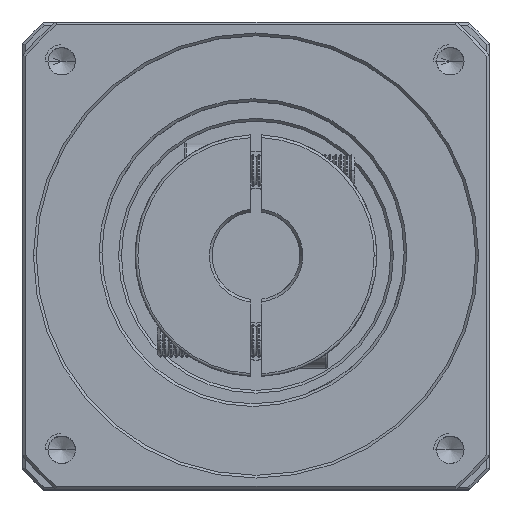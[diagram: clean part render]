
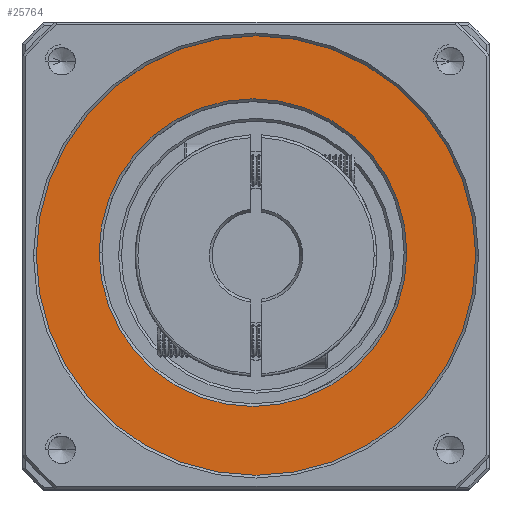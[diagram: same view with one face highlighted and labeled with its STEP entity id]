
A CAD part, top view. The second image highlights one B-rep face of the part: STEP entity #25764.
In plain terms, the highlighted planar face has unit normal (0, 0, 1).
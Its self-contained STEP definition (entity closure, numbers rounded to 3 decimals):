
#4715 = DIRECTION ( 'NONE',  ( 0., 0., -1. ) ) ;
#5273 = CARTESIAN_POINT ( 'NONE',  ( -109.692, 42.906, 120.185 ) ) ;
#10023 = AXIS2_PLACEMENT_3D ( 'NONE', #99049, #48314, #117683 ) ;
#14670 = EDGE_CURVE ( 'NONE', #103950, #25864, #120879, .T. ) ;
#15271 = CARTESIAN_POINT ( 'NONE',  ( -81.15, 42.371, 120.185 ) ) ;
#16152 = PLANE ( 'NONE',  #92284 ) ;
#19319 = ORIENTED_EDGE ( 'NONE', *, *, #45226, .T. ) ;
#22211 = ORIENTED_EDGE ( 'NONE', *, *, #14670, .T. ) ;
#25591 = AXIS2_PLACEMENT_3D ( 'NONE', #98431, #69371, #89351 ) ;
#25764 = ADVANCED_FACE ( 'NONE', ( #46026, #109770 ), #16152, .T. ) ;
#25864 = VERTEX_POINT ( 'NONE', #5273 ) ;
#26156 = DIRECTION ( 'NONE',  ( 0., 0., 1. ) ) ;
#27896 = ORIENTED_EDGE ( 'NONE', *, *, #40616, .T. ) ;
#34360 = DIRECTION ( 'NONE',  ( 1., 0., 0. ) ) ;
#36819 = CARTESIAN_POINT ( 'NONE',  ( -81.15, 42.371, 120.185 ) ) ;
#39305 = VERTEX_POINT ( 'NONE', #106836 ) ;
#40616 = EDGE_CURVE ( 'NONE', #42920, #39305, #74158, .T. ) ;
#42920 = VERTEX_POINT ( 'NONE', #110807 ) ;
#43542 = AXIS2_PLACEMENT_3D ( 'NONE', #36819, #116634, #105416 ) ;
#43545 = EDGE_LOOP ( 'NONE', ( #22211, #19319 ) ) ;
#45226 = EDGE_CURVE ( 'NONE', #25864, #103950, #77356, .T. ) ;
#46026 = FACE_OUTER_BOUND ( 'NONE', #91487, .T. ) ;
#46499 = ORIENTED_EDGE ( 'NONE', *, *, #85867, .T. ) ;
#48314 = DIRECTION ( 'NONE',  ( 0., 0., -1. ) ) ;
#54052 = DIRECTION ( 'NONE',  ( 1., 0., 0. ) ) ;
#63932 = CARTESIAN_POINT ( 'NONE',  ( -81.692, 42.906, 120.185 ) ) ;
#67887 = CARTESIAN_POINT ( 'NONE',  ( -53.692, 42.906, 120.185 ) ) ;
#69371 = DIRECTION ( 'NONE',  ( 0., 0., 1. ) ) ;
#74158 = CIRCLE ( 'NONE', #43542, 40. ) ;
#76578 = CIRCLE ( 'NONE', #25591, 40. ) ;
#77356 = CIRCLE ( 'NONE', #120660, 28. ) ;
#85867 = EDGE_CURVE ( 'NONE', #39305, #42920, #76578, .T. ) ;
#89351 = DIRECTION ( 'NONE',  ( 1., 0., 0. ) ) ;
#91487 = EDGE_LOOP ( 'NONE', ( #27896, #46499 ) ) ;
#92284 = AXIS2_PLACEMENT_3D ( 'NONE', #15271, #26156, #54052 ) ;
#98431 = CARTESIAN_POINT ( 'NONE',  ( -81.15, 42.371, 120.185 ) ) ;
#99049 = CARTESIAN_POINT ( 'NONE',  ( -81.692, 42.906, 120.185 ) ) ;
#103950 = VERTEX_POINT ( 'NONE', #67887 ) ;
#105416 = DIRECTION ( 'NONE',  ( 1., 0., 0. ) ) ;
#106836 = CARTESIAN_POINT ( 'NONE',  ( -121.15, 42.371, 120.185 ) ) ;
#109770 = FACE_BOUND ( 'NONE', #43545, .T. ) ;
#110807 = CARTESIAN_POINT ( 'NONE',  ( -41.15, 42.371, 120.185 ) ) ;
#116634 = DIRECTION ( 'NONE',  ( 0., 0., 1. ) ) ;
#117683 = DIRECTION ( 'NONE',  ( 1., 0., 0. ) ) ;
#120660 = AXIS2_PLACEMENT_3D ( 'NONE', #63932, #4715, #34360 ) ;
#120879 = CIRCLE ( 'NONE', #10023, 28. ) ;
